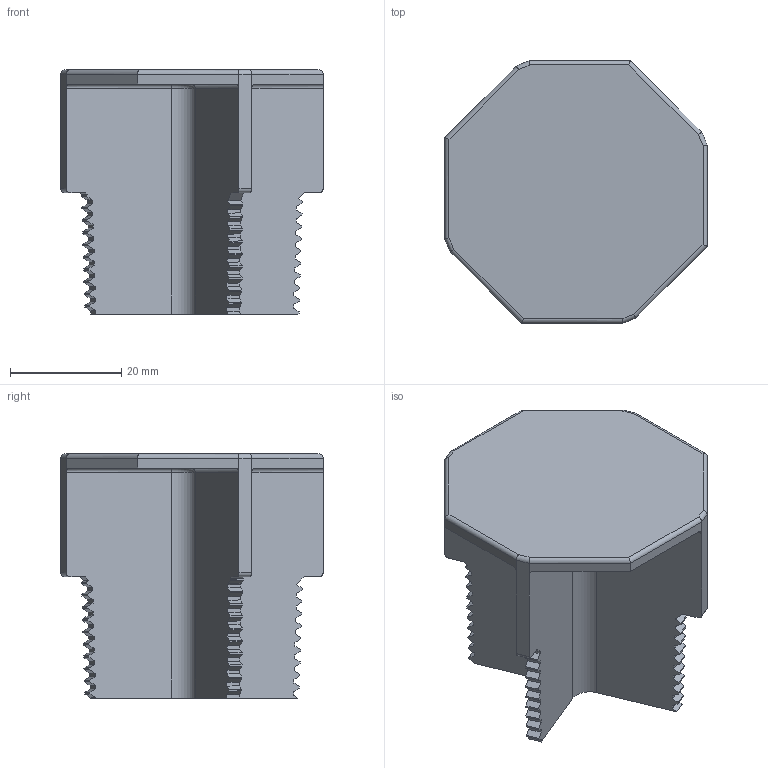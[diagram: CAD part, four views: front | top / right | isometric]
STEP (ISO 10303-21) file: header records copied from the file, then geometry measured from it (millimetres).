
FILE_DESCRIPTION(/* description */ ('Alibre Inc.'),/* implementation_level */ '2;1');
FILE_NAME(/* name */ 'export0',/* time_stamp */ '2017-10-21T13:09:44-04:00',/* author */ (''),/* organization */ (''),/* preprocessor_version */ 'ST-DEVELOPER v14',/* originating_system */ 'Alibre',/* authorisation */ '');
FILE_SCHEMA (('CONFIG_CONTROL_DESIGN'));
Length unit declared in the file: centimetre
Products named in the file (1): ID_2
Bounding box: 47.24 x 47.24 x 43.94 mm (x, y, z)
Volume: 13894.6 mm3; surface area: 11369.3 mm2
Topology: 1 solids, 1 shells, 226 faces, 649 edges, 426 vertices
Faces by surface type: bspline 118, cone 44, plane 31, cylinder 29, torus 4
Full cylindrical faces by diameter (mm): 3.81 x1
Entity records: 448132 total; most frequent: CARTESIAN_POINT 443518, ORIENTED_EDGE 1296, EDGE_CURVE 648, DIRECTION 429, VERTEX_POINT 426, B_SPLINE_CURVE_WITH_KNOTS 286, EDGE_LOOP 228, FACE_BOUND 228
